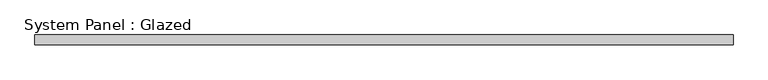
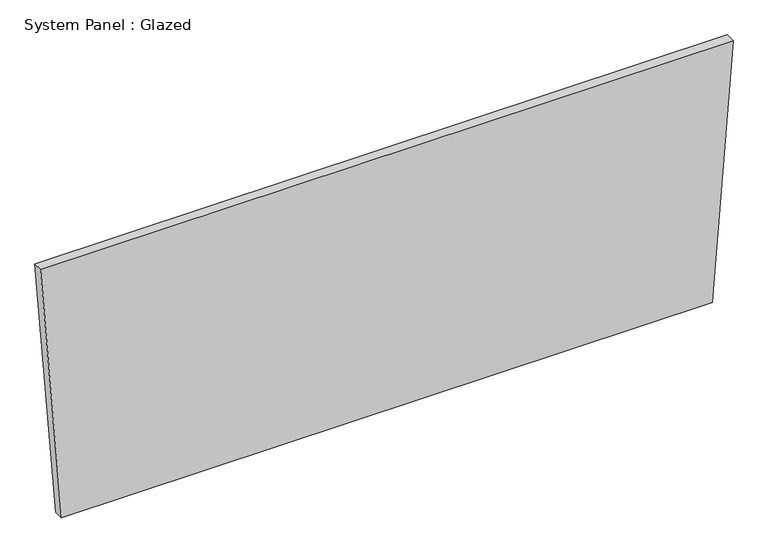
"""IFC4 building model written with IfcOpenShell, lengths in millimetres: plate geometry, System Panel : Glazed."""

from ifc_helpers import new_model, si_unit, frame, origin, place, context, project, spatial, polyline, outline, extrude, source, transform, mapped, element, save


def system_panel_glazed_dfffa2bf(model_context):
    return source(origin(), model_context, "Body", "SweptSolid", [
        extrude(outline(polyline([(0.0006374, -846.1260582), (0.0, 846.1260087), (701.8805586, 900.602191), (701.8805586, -900.602191), (0.0006374, -846.1260582)])), frame((0.0, 19.05, 0.0), z_axis=(0.0, 1.0, 0.0), x_axis=(0.0, 0.0, 1.0)), (0.0, 0.0, 1.0), 25.4),
    ])


if __name__ == "__main__":
    model = new_model("IFC4")
    model_context = context("Model", 3, world=origin())
    ifc_project = project(units=[si_unit("LENGTHUNIT", "METRE", prefix="MILLI")], contexts=[model_context])
    site = spatial("IfcSite", under=ifc_project)
    building = spatial("IfcBuilding", under=site)
    placement = place(None, origin())
    system_panel_glazed_shape = system_panel_glazed_dfffa2bf(model_context)
    element("IfcPlate", 1, ObjectType="System Panel : Glazed", at=placement, inside=building, context=model_context, shape_type="MappedRepresentation", body=[
        mapped(system_panel_glazed_shape, transform((0.0, 0.0, 0.0), x_axis=(1.0, 0.0, 0.0), y_axis=(0.0, 1.0, 0.0), z_axis=(0.0, 0.0, 1.0))),
    ])
    save(model, "model.ifc")
